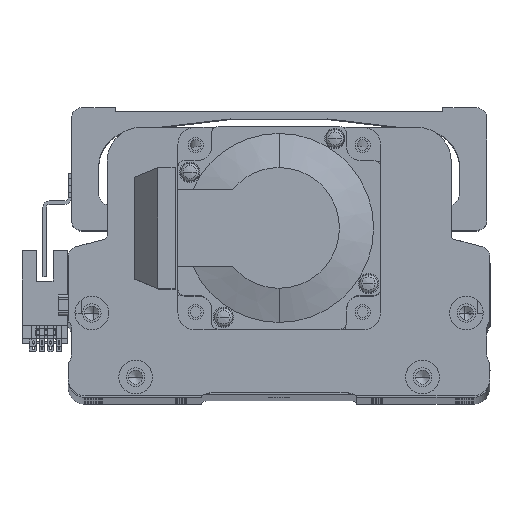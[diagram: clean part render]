
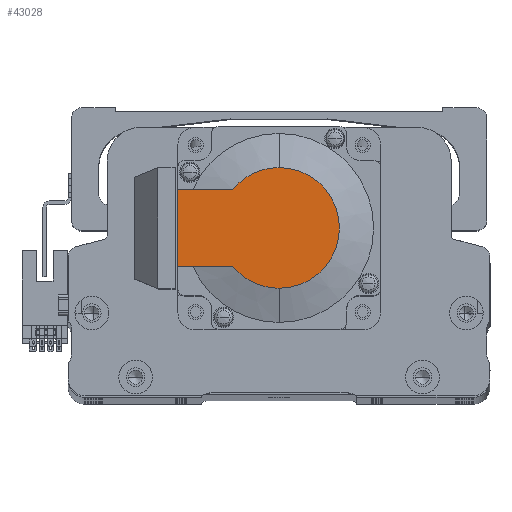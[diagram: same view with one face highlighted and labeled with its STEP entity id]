
A CAD part, top view. The second image highlights one B-rep face of the part: STEP entity #43028.
In plain terms, the highlighted planar face has unit normal (0, 0, 1) as drawn and (-1, 0, 0) by its records, which use the part's own axes.
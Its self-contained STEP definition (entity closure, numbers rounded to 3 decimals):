
#74 = CARTESIAN_POINT ( 'NONE',  ( -118.5, -8.941, -11.45 ) ) ;
#352 = DIRECTION ( 'NONE',  ( 0., -1., 0. ) ) ;
#698 = VECTOR ( 'NONE', #49508, 1000. ) ;
#2205 = VERTEX_POINT ( 'NONE', #13677 ) ;
#2811 = VERTEX_POINT ( 'NONE', #3798 ) ;
#3536 = VECTOR ( 'NONE', #13057, 1000. ) ;
#3798 = CARTESIAN_POINT ( 'NONE',  ( -118.5, 30., 11.45 ) ) ;
#4649 = DIRECTION ( 'NONE',  ( -1., 0., 0. ) ) ;
#8838 = CARTESIAN_POINT ( 'NONE',  ( -118.5, 13.735, -11.45 ) ) ;
#10788 = PLANE ( 'NONE',  #50235 ) ;
#10981 = DIRECTION ( 'NONE',  ( -1., 0., 0. ) ) ;
#11580 = DIRECTION ( 'NONE',  ( -1., 0., 0. ) ) ;
#12610 = ORIENTED_EDGE ( 'NONE', *, *, #49380, .T. ) ;
#13057 = DIRECTION ( 'NONE',  ( 0., -1., 0. ) ) ;
#13295 = FACE_OUTER_BOUND ( 'NONE', #53425, .T. ) ;
#13489 = LINE ( 'NONE', #19430, #698 ) ;
#13677 = CARTESIAN_POINT ( 'NONE',  ( -118.5, 0., -17.881 ) ) ;
#14696 = EDGE_CURVE ( 'NONE', #32182, #2811, #13489, .T. ) ;
#16292 = LINE ( 'NONE', #74, #3536 ) ;
#17587 = CIRCLE ( 'NONE', #24800, 17.881 ) ;
#19430 = CARTESIAN_POINT ( 'NONE',  ( -118.5, 30., 25. ) ) ;
#21995 = ORIENTED_EDGE ( 'NONE', *, *, #24487, .T. ) ;
#22478 = EDGE_CURVE ( 'NONE', #2811, #50101, #52874, .T. ) ;
#24440 = CARTESIAN_POINT ( 'NONE',  ( -118.5, 13.735, 11.45 ) ) ;
#24487 = EDGE_CURVE ( 'NONE', #2205, #41237, #17587, .T. ) ;
#24800 = AXIS2_PLACEMENT_3D ( 'NONE', #37321, #11580, #41581 ) ;
#25405 = DIRECTION ( 'NONE',  ( -1., 0., 0. ) ) ;
#26730 = ORIENTED_EDGE ( 'NONE', *, *, #14696, .F. ) ;
#29195 = CARTESIAN_POINT ( 'NONE',  ( -118.5, 30., -11.45 ) ) ;
#30279 = EDGE_CURVE ( 'NONE', #53217, #2205, #53304, .T. ) ;
#30317 = CARTESIAN_POINT ( 'NONE',  ( -118.5, 0., 0. ) ) ;
#30683 = ORIENTED_EDGE ( 'NONE', *, *, #30279, .T. ) ;
#32182 = VERTEX_POINT ( 'NONE', #29195 ) ;
#33539 = CARTESIAN_POINT ( 'NONE',  ( -118.5, 0., 17.881 ) ) ;
#33663 = AXIS2_PLACEMENT_3D ( 'NONE', #51063, #25405, #55404 ) ;
#34653 = DIRECTION ( 'NONE',  ( 0., 0., -1. ) ) ;
#36453 = CIRCLE ( 'NONE', #49963, 17.881 ) ;
#36745 = CARTESIAN_POINT ( 'NONE',  ( -118.5, -8.941, 0. ) ) ;
#37321 = CARTESIAN_POINT ( 'NONE',  ( -118.5, 0., 0. ) ) ;
#37852 = ORIENTED_EDGE ( 'NONE', *, *, #22478, .F. ) ;
#38124 = EDGE_CURVE ( 'NONE', #32182, #53217, #16292, .T. ) ;
#41003 = DIRECTION ( 'NONE',  ( 0., 0., 1. ) ) ;
#41237 = VERTEX_POINT ( 'NONE', #33539 ) ;
#41581 = DIRECTION ( 'NONE',  ( 0., 0., -1. ) ) ;
#43028 = ADVANCED_FACE ( 'NONE', ( #13295 ), #10788, .T. ) ;
#43685 = CARTESIAN_POINT ( 'NONE',  ( -118.5, 0., 11.45 ) ) ;
#44816 = ORIENTED_EDGE ( 'NONE', *, *, #38124, .T. ) ;
#49380 = EDGE_CURVE ( 'NONE', #41237, #50101, #36453, .T. ) ;
#49508 = DIRECTION ( 'NONE',  ( 0., 0., 1. ) ) ;
#49963 = AXIS2_PLACEMENT_3D ( 'NONE', #30317, #4649, #34653 ) ;
#50101 = VERTEX_POINT ( 'NONE', #24440 ) ;
#50235 = AXIS2_PLACEMENT_3D ( 'NONE', #36745, #10981, #41003 ) ;
#51063 = CARTESIAN_POINT ( 'NONE',  ( -118.5, 0., 0. ) ) ;
#51515 = VECTOR ( 'NONE', #352, 1000. ) ;
#52874 = LINE ( 'NONE', #43685, #51515 ) ;
#53217 = VERTEX_POINT ( 'NONE', #8838 ) ;
#53304 = CIRCLE ( 'NONE', #33663, 17.881 ) ;
#53425 = EDGE_LOOP ( 'NONE', ( #44816, #30683, #21995, #12610, #37852, #26730 ) ) ;
#55404 = DIRECTION ( 'NONE',  ( 0., 0., -1. ) ) ;
